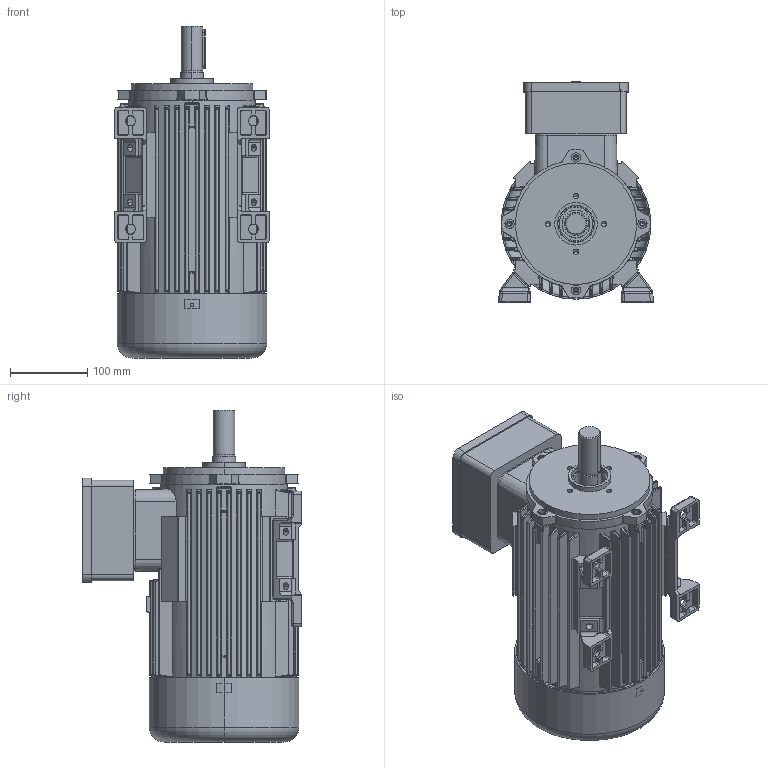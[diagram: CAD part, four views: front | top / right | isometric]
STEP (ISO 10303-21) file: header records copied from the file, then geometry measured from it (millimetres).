
FILE_DESCRIPTION (( 'STEP AP214' ), '1' );
FILE_NAME ('20.18365-A 7AZ 100 B3 STANDK.STEP', '2018-04-10T12:09:51', ( '' ), ( '' ), 'SwSTEP 2.0', 'SolidWorks 2017', '' );
FILE_SCHEMA (( 'AUTOMOTIVE_DESIGN' ));
Length unit declared in the file: millimetre
Products named in the file (1): 20.18365-A 7AZ 100 B3 STANDK
Bounding box: 199.97 x 284.67 x 430 mm (x, y, z)
Volume: 3379221.9 mm3; surface area: 1030892.8 mm2
Topology: 15 solids, 15 shells, 2345 faces, 5813 edges, 3428 vertices
Faces by surface type: cylinder 823, bspline 698, plane 593, cone 124, torus 81, sphere 26
Entity records: 118129 total; most frequent: CARTESIAN_POINT 43319, ORIENTED_EDGE 11250, DIRECTION 9162, EDGE_CURVE 5625, AXIS2_PLACEMENT_3D 3538, VERTEX_POINT 3424, EDGE_LOOP 2545, ADVANCED_FACE 2345
